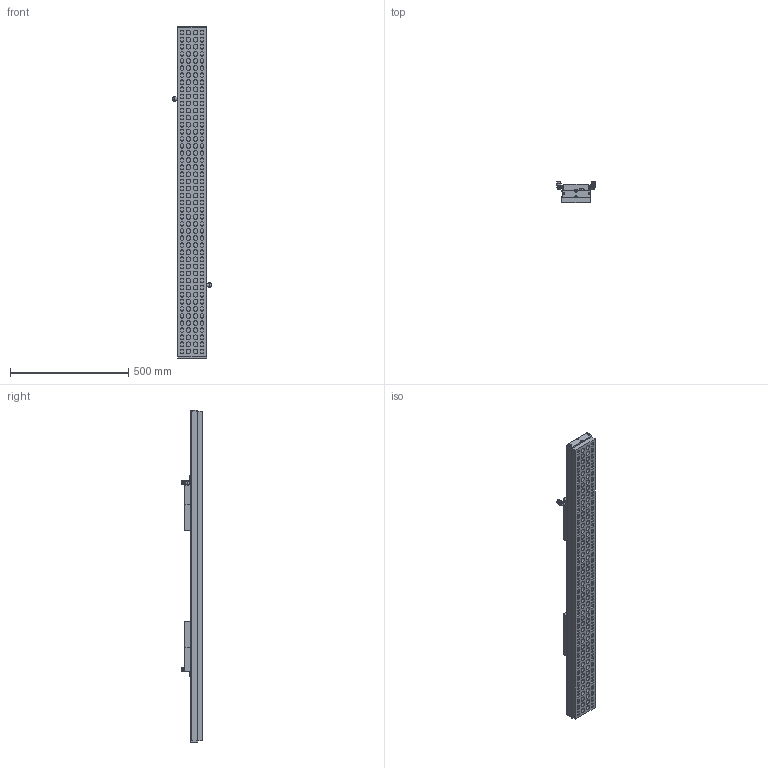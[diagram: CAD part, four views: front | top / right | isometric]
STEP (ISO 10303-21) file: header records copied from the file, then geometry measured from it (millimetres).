
FILE_DESCRIPTION (( 'STEP AP214' ), '1' );
FILE_NAME ('311 400 012.STEP', '2018-01-10T11:32:20', ( '' ), ( '' ), 'SwSTEP 2.0', 'SolidWorks 2017', '' );
FILE_SCHEMA (( 'AUTOMOTIVE_DESIGN' ));
Length unit declared in the file: millimetre
Products named in the file (1): 311 400 012
Bounding box: 165.5 x 89 x 1406 mm (x, y, z)
Volume: 8655604.5 mm3; surface area: 763866.6 mm2
Topology: 1 solids, 3 shells, 1596 faces, 3744 edges, 2404 vertices
Faces by surface type: cylinder 748, plane 680, torus 78, cone 72, bspline 12, sphere 6
Entity records: 64343 total; most frequent: CARTESIAN_POINT 8971, DIRECTION 8498, ORIENTED_EDGE 7468, EDGE_CURVE 3734, AXIS2_PLACEMENT_3D 3315, VERTEX_POINT 2398, LINE 1868, VECTOR 1868
